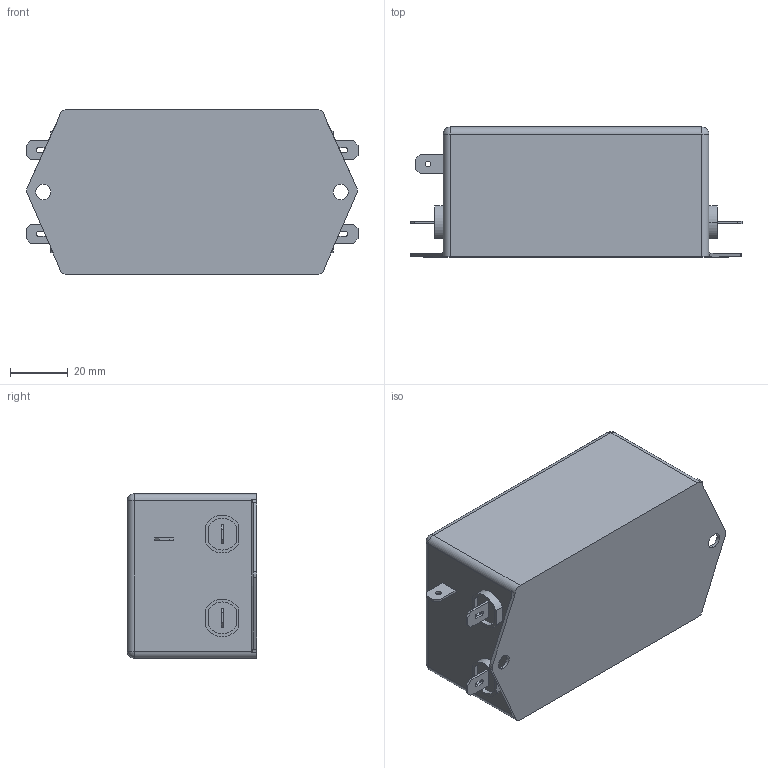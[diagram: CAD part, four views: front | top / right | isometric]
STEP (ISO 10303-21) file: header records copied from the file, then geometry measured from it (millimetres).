
FILE_DESCRIPTION (( 'STEP AP214' ), '1' );
FILE_NAME ('NF-12-1ph-GSG_.STEP', '2025-08-20T08:49:09', ( '' ), ( '' ), 'SwSTEP 2.0', 'SolidWorks 2025', '' );
FILE_SCHEMA (( 'AUTOMOTIVE_DESIGN' ));
Length unit declared in the file: millimetre
Products named in the file (1): NF-12-1ph-GSG_
Bounding box: 115 x 45 x 57 mm (x, y, z)
Volume: 237234.4 mm3; surface area: 25863.5 mm2
Topology: 1 solids, 1 shells, 141 faces, 366 edges, 236 vertices
Faces by surface type: plane 79, cylinder 54, torus 4, sphere 4
Entity records: 4389 total; most frequent: CARTESIAN_POINT 830, DIRECTION 742, ORIENTED_EDGE 724, EDGE_CURVE 362, AXIS2_PLACEMENT_3D 250, VECTOR 242, LINE 242, VERTEX_POINT 236
